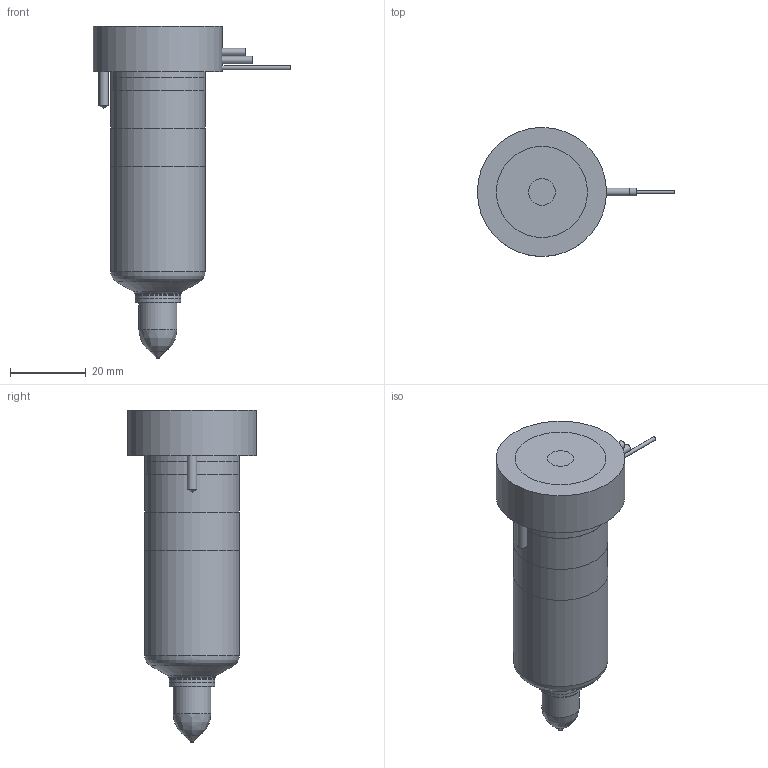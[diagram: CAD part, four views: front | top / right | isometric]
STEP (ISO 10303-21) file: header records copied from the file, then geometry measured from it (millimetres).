
FILE_DESCRIPTION(/* description */ (''),/* implementation_level */ '2;1');
FILE_NAME(/* name */ 'MXTT-MXIT16065-10_250C_b',/* time_stamp */ '2007-01-18T09:52:54+13:00',/* author */ (''),/* organization */ (''),/* preprocessor_version */ 'ST-DEVELOPER v9',/* originating_system */ 'UGS - NX 4.0',/* authorisation */ '');
FILE_SCHEMA (('CONFIG_CONTROL_DESIGN'));
Length unit declared in the file: millimetre
Products named in the file (1): MXTT-MXIT16065-10_250C_b
Bounding box: 51.95 x 34 x 87.45 mm (x, y, z)
Volume: 71557.9 mm3; surface area: 17098.9 mm2
Topology: 7 solids, 7 shells, 86 faces, 162 edges, 102 vertices
Faces by surface type: plane 35, cylinder 29, cone 12, torus 8, bspline 2
Full cylindrical faces by diameter (mm): 1 x4, 2 x2, 2.5 x2, 6.5 x1, 7 x1, 10 x1, 11.61 x1, 12.01 x2, 14.8 x1, 20.8 x1, 24.9 x2, 25 x2, 34 x1
Entity records: 2065 total; most frequent: CARTESIAN_POINT 423, DIRECTION 352, ORIENTED_EDGE 228, AXIS2_PLACEMENT_3D 163, EDGE_LOOP 138, EDGE_CURVE 114, VERTEX_POINT 95, ADVANCED_FACE 86
